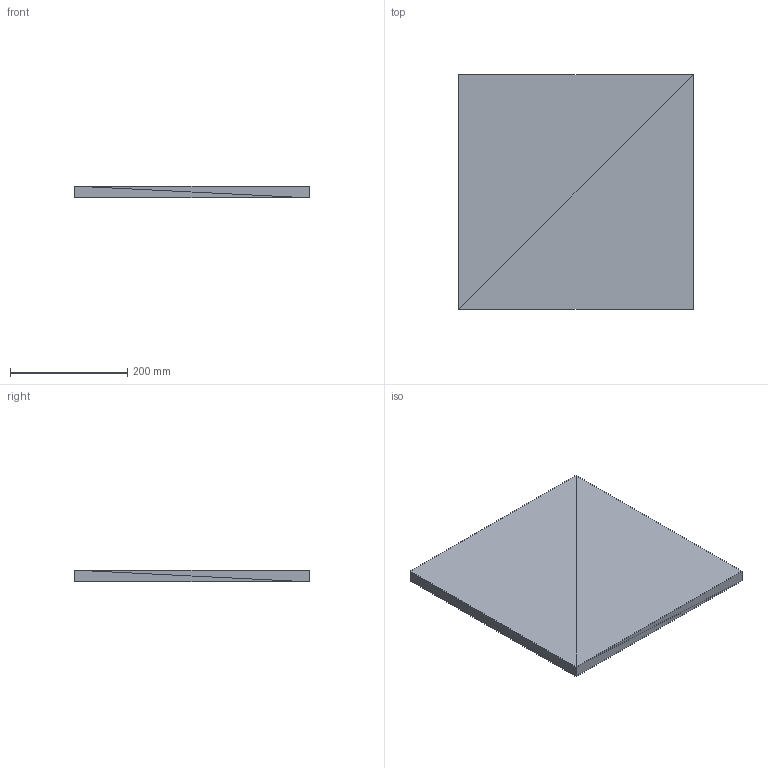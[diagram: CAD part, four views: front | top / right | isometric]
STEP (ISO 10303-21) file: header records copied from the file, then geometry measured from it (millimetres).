
FILE_DESCRIPTION(('ISINAC STEP AP214'),'2;1');
FILE_NAME('ISINAC_C.400_20mm_ADHESIVO','2026-05-03T10:49:19',('ISINAC'),('www.isinac.com'),'ISINAC BIM Generator 1.0','','');
FILE_SCHEMA(('AUTOMOTIVE_DESIGN'));
Length unit declared in the file: millimetre
Products named in the file (1): ISINAC_C.400_20mm_ADHESIVO
Bounding box: 400 x 400 x 20 mm (x, y, z)
Surface area: 352000 mm2 (no closed solid volume)
Topology: 0 solids, 12 shells, 12 faces, 36 edges, 36 vertices
Faces by surface type: plane 12
Entity records: 145 total; most frequent: CARTESIAN_POINT 48, DIRECTION 24, POLY_LOOP 12, FACE_OUTER_BOUND 12, AXIS2_PLACEMENT_3D 12, PLANE 12, FACE_SURFACE 12, CLOSED_SHELL 1
